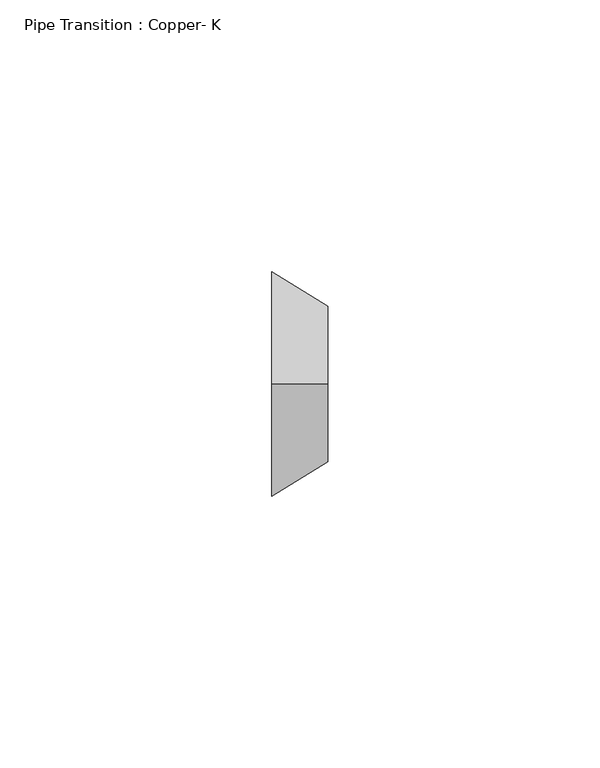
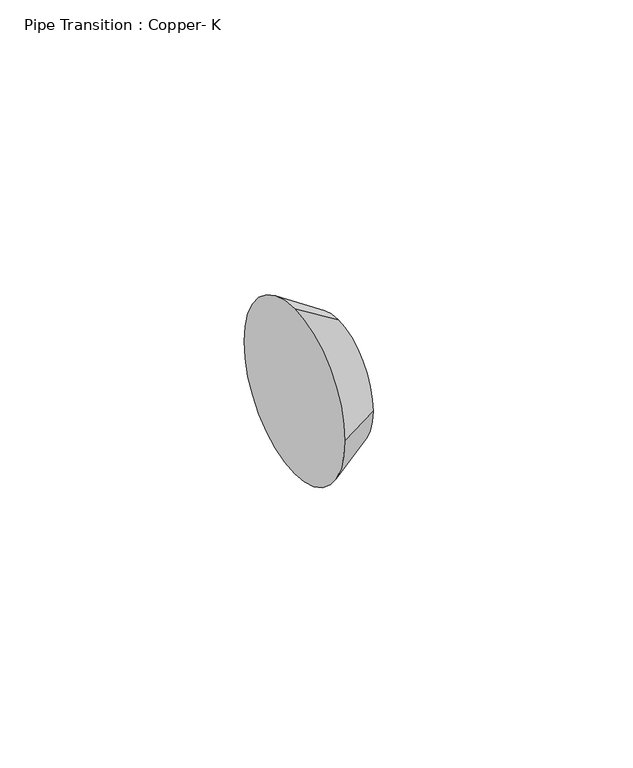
"""IFC4 building model written with IfcOpenShell, lengths in millimetres: pipe fitting geometry, Pipe Transition : Copper- K."""

from ifc_helpers import new_model, si_unit, frame, origin, place, context, project, spatial, polyline, circle_curve, source, transform, mapped, element, save
from ifc_brep_helpers import plane_surface, revolved_surface, advanced_brep


def pipe_transition_copper_k_0f2e1631(model_context):
    return source(origin(), model_context, "Body", "AdvancedBrep", [
        advanced_brep(
        [(10.31875, 0.0, 14.2875), (10.31875, -14.2875, 0.0), (10.31875, 0.0, -14.2875), (10.31875, 14.2875, 0.0), (0.0, 0.0, 20.6375), (0.0, 20.6375, 0.0), (0.0, 0.0, -20.6375), (0.0, -20.6375, 0.0)],
        [
            (0, 1, circle_curve(frame((10.31875, 0.0, 0.0), z_axis=(1.0, 0.0, 0.0), x_axis=(0.0, -1.0, 0.0)), 14.2875)),
            (1, 2, circle_curve(frame((10.31875, 0.0, 0.0), z_axis=(1.0, 0.0, 0.0), x_axis=(0.0, 0.0, -1.0)), 14.2875)),
            (2, 3, circle_curve(frame((10.31875, 0.0, 0.0), z_axis=(1.0, 0.0, 0.0), x_axis=(0.0, 1.0, 0.0)), 14.2875)),
            (3, 0, circle_curve(frame((10.31875, 0.0, 0.0), z_axis=(1.0, 0.0, 0.0), x_axis=(0.0, 0.0, 1.0)), 14.2875)),
            (4, 5, circle_curve(frame((0.0, 0.0, 0.0), z_axis=(-1.0, 0.0, 0.0), x_axis=(0.0, 0.0, 1.0)), 20.6375)),
            (5, 6, circle_curve(frame((0.0, 0.0, 0.0), z_axis=(-1.0, 0.0, 0.0), x_axis=(0.0, 1.0, 0.0)), 20.6375)),
            (6, 7, circle_curve(frame((0.0, 0.0, 0.0), z_axis=(-1.0, 0.0, 0.0), x_axis=(0.0, 0.0, -1.0)), 20.6375)),
            (7, 4, circle_curve(frame((0.0, 0.0, 0.0), z_axis=(-1.0, 0.0, 0.0), x_axis=(0.0, -1.0, 0.0)), 20.6375)),
            (4, 0),
            (3, 5),
            (2, 6),
            (1, 7),
        ],
        [
            plane_surface(frame((10.31875, 0.0, 0.0), z_axis=(1.0, 0.0, 0.0), x_axis=(0.0, 1.0, 0.0))),
            plane_surface(frame((0.0, 0.0, 0.0), z_axis=(-1.0, 0.0, 0.0), x_axis=(0.0, 1.0, 0.0))),
            revolved_surface(polyline([(10.318750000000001, 0.0, 14.2875), (0.0, 0.0, 20.6375)]), (33.5359375, 0.0, 0.0), (-1.0, 0.0, 0.0)),
            revolved_surface(polyline([(10.318750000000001, 14.2875, 0.0), (0.0, 20.6375, 0.0)]), (33.5359375, 0.0, 0.0), (-1.0, 0.0, 0.0)),
            revolved_surface(polyline([(10.318750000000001, 0.0, -14.2875), (0.0, 0.0, -20.6375)]), (33.5359375, 0.0, 0.0), (-1.0, 0.0, 0.0)),
            revolved_surface(polyline([(10.318750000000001, -14.2875, 0.0), (0.0, -20.6375, 0.0)]), (33.5359375, 0.0, 0.0), (-1.0, 0.0, 0.0)),
        ],
        [
            (0, [[1, 2, 3, 4]]),
            (1, [[5, 6, 7, 8]]),
            (2, [[9, -4, 10, -5]]),
            (3, [[-10, -3, 11, -6]]),
            (4, [[-11, -2, 12, -7]]),
            (5, [[-12, -1, -9, -8]]),
        ],
    ),
        advanced_brep(
        [(10.31875, 0.0, 14.2875), (10.31875, -14.2875, 0.0), (10.31875, 0.0, -14.2875), (10.31875, 14.2875, 0.0), (0.0, 0.0, 20.6375), (0.0, 20.6375, 0.0), (0.0, 0.0, -20.6375), (0.0, -20.6375, 0.0)],
        [
            (0, 1, circle_curve(frame((10.31875, 0.0, 0.0), z_axis=(1.0, 0.0, 0.0), x_axis=(0.0, -1.0, 0.0)), 14.2875)),
            (1, 2, circle_curve(frame((10.31875, 0.0, 0.0), z_axis=(1.0, 0.0, -1.2689316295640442e-12), x_axis=(-1.2688930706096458e-12, 0.0, -1.0)), 14.2875)),
            (2, 3, circle_curve(frame((10.31875, 0.0, 0.0), z_axis=(1.0, 0.0, 0.0), x_axis=(0.0, 1.0, 0.0)), 14.2875)),
            (3, 0, circle_curve(frame((10.31875, 0.0, 0.0), z_axis=(1.0, 0.0, 0.0), x_axis=(0.0, 0.0, 1.0)), 14.2875)),
            (4, 5, circle_curve(frame((0.0, 0.0, 0.0), z_axis=(-1.0, 0.0, 0.0), x_axis=(0.0, 0.0, 1.0)), 20.6375)),
            (5, 6, circle_curve(frame((0.0, 0.0, 0.0), z_axis=(-1.0, 0.0, 0.0), x_axis=(0.0, 1.0, 0.0)), 20.6375)),
            (6, 7, circle_curve(frame((0.0, 0.0, 0.0), z_axis=(-1.0, 0.0, 1.2689316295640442e-12), x_axis=(-1.2688930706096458e-12, 0.0, -1.0)), 20.6375)),
            (7, 4, circle_curve(frame((0.0, 0.0, 0.0), z_axis=(-1.0, 0.0, 0.0), x_axis=(0.0, -1.0, 0.0)), 20.6375)),
            (4, 0),
            (3, 5),
            (2, 6),
            (1, 7),
        ],
        [
            plane_surface(frame((10.31875, 0.0, 0.0), z_axis=(1.0, 0.0, 0.0), x_axis=(0.0, 1.0, 0.0))),
            plane_surface(frame((0.0, 0.0, 0.0), z_axis=(-1.0, 0.0, 0.0), x_axis=(0.0, 1.0, 0.0))),
            revolved_surface(polyline([(10.318750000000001, 0.0, 14.2875), (0.0, 0.0, 20.6375)]), (33.5359375, 0.0, 0.0), (-1.0, 0.0, 0.0)),
            revolved_surface(polyline([(10.318750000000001, 14.2875, 0.0), (0.0, 20.6375, 0.0)]), (33.5359375, 0.0, 0.0), (-1.0, 0.0, 0.0)),
            revolved_surface(polyline([(10.318749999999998, 0.0, -14.287500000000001), (-2.6190605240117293e-11, 0.0, -20.637500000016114)]), (33.5359375, 0.0, 0.0), (-1.0, 0.0, 1.2689316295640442e-12)),
            revolved_surface(polyline([(10.318750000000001, -14.2875, 0.0), (0.0, -20.6375, 0.0)]), (33.5359375, 0.0, 0.0), (-1.0, 0.0, 0.0)),
        ],
        [
            (0, [[1, 2, 3, 4]]),
            (1, [[5, 6, 7, 8]]),
            (2, [[9, -4, 10, -5]]),
            (3, [[-10, -3, 11, -6]]),
            (4, [[-11, -2, 12, -7]]),
            (5, [[-12, -1, -9, -8]]),
        ],
    ),
    ])


if __name__ == "__main__":
    model = new_model("IFC4")
    model_context = context("Model", 3, world=origin())
    ifc_project = project(units=[si_unit("LENGTHUNIT", "METRE", prefix="MILLI")], contexts=[model_context])
    site = spatial("IfcSite", under=ifc_project)
    building = spatial("IfcBuilding", under=site)
    placement = place(None, origin())
    pipe_transition_copper_k_shape = pipe_transition_copper_k_0f2e1631(model_context)
    element("IfcPipeFitting", 1, ObjectType="Pipe Transition : Copper- K", at=placement, inside=building, context=model_context, shape_type="MappedRepresentation", body=[
        mapped(pipe_transition_copper_k_shape, transform((0.0, 0.0, 0.0), x_axis=(1.0, 0.0, 0.0), y_axis=(0.0, 1.0, 0.0), z_axis=(0.0, 0.0, 1.0))),
    ])
    save(model, "model.ifc")
